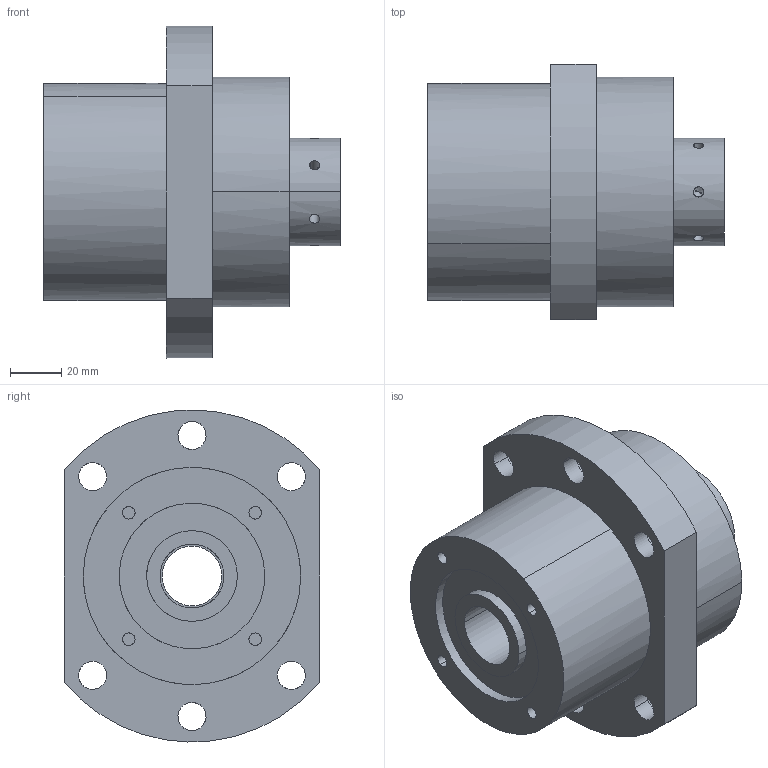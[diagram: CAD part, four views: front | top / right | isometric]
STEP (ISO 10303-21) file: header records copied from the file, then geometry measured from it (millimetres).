
FILE_DESCRIPTION(('CATIA V5 STEP Exchange'),'2;1');
FILE_NAME('D:\서포트 완성도면\WBK\WBK25DFT.stp','2014-03-26T10:23:48+00:00',('none'),('none'),'CATIA Version 5 Release 18 GA (IN-10)','CATIA V5 STEP AP203','none');
FILE_SCHEMA(('CONFIG_CONTROL_DESIGN'));
Length unit declared in the file: millimetre
Products named in the file (1): WBK25DFT
Assembly tree (4 placements, depth 2):
  WBK25DFT
    #56
    #3590  x2
    #3866
Bounding box: 116 x 100 x 129.96 mm (x, y, z)
Volume: 607939.8 mm3; surface area: 81240.4 mm2
Topology: 4 solids, 4 shells, 164 faces, 396 edges, 248 vertices
Faces by surface type: cylinder 98, cone 36, plane 30
Entity records: 6510 total; most frequent: CARTESIAN_POINT 3168, ORIENTED_EDGE 744, DIRECTION 473, EDGE_CURVE 372, VERTEX_POINT 240, AXIS2_PLACEMENT_3D 212, EDGE_LOOP 208, B_SPLINE_CURVE_WITH_KNOTS 173
